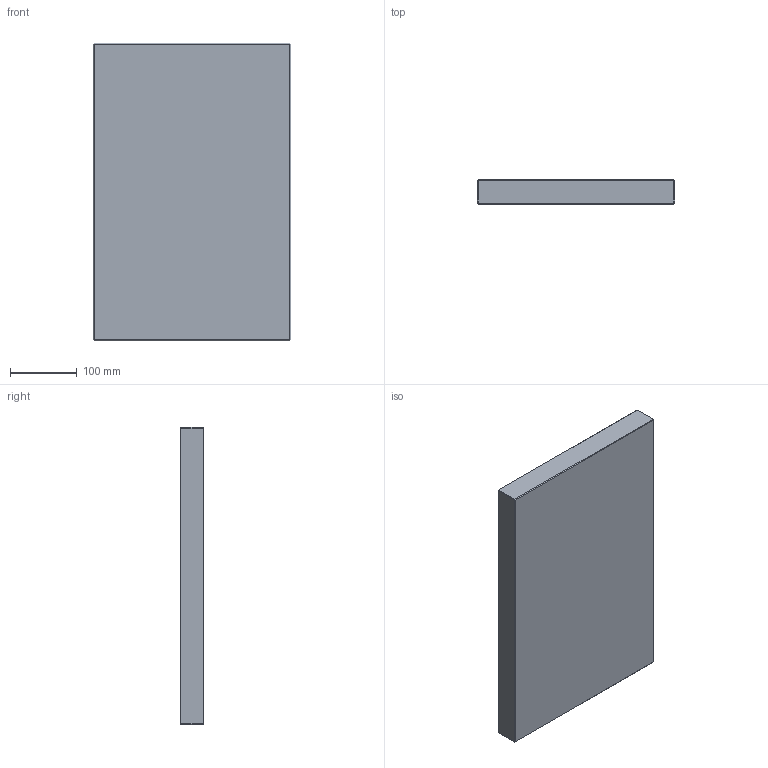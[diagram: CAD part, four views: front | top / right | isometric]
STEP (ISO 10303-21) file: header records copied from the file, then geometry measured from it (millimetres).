
FILE_DESCRIPTION (( 'STEP AP214' ), '1' );
FILE_NAME ('PC-P-296x446x36.STEP', '2020-04-01T09:52:05', ( 'August' ), ( '' ), 'SwSTEP 2.0', 'SolidWorks 2018', '' );
FILE_SCHEMA (( 'AUTOMOTIVE_DESIGN' ));
Length unit declared in the file: millimetre
Products named in the file (1): PC-P-296x446x36
Bounding box: 296 x 36 x 446 mm (x, y, z)
Volume: 4751025.3 mm3; surface area: 315630 mm2
Topology: 1 solids, 1 shells, 26 faces, 48 edges, 24 vertices
Faces by surface type: plane 26
Entity records: 634 total; most frequent: DIRECTION 102, CARTESIAN_POINT 99, ORIENTED_EDGE 96, EDGE_CURVE 48, LINE 48, VECTOR 48, AXIS2_PLACEMENT_3D 27, FACE_OUTER_BOUND 26
